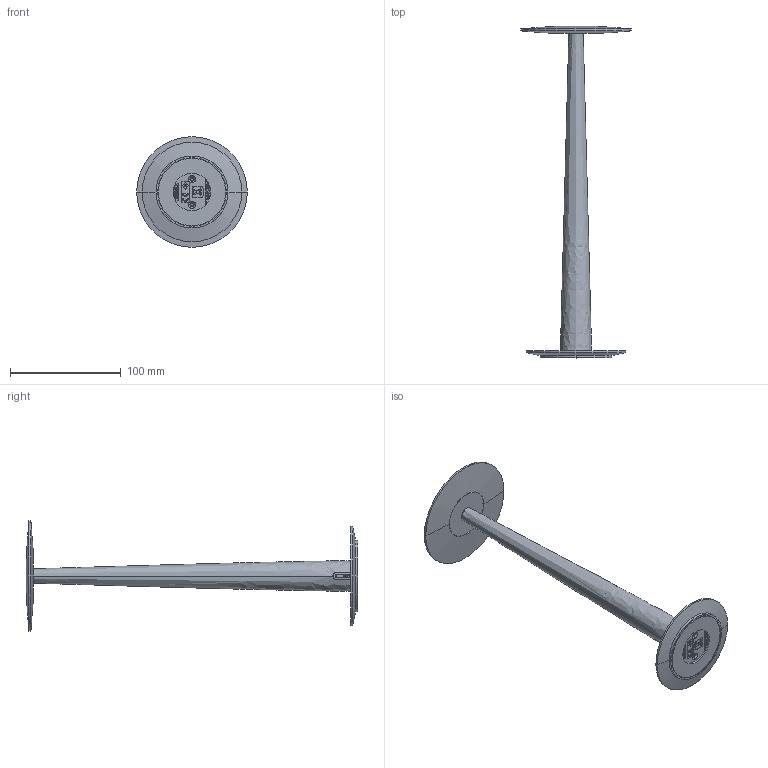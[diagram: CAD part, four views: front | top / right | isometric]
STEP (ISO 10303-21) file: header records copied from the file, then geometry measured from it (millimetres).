
FILE_DESCRIPTION (( 'STEP AP214' ), '1' );
FILE_NAME ('800PORLWW111_PORTOFINO_alluminio.STEP', '2023-07-04T13:41:00', ( '' ), ( '' ), 'SwSTEP 2.0', 'SolidWorks 2016', '' );
FILE_SCHEMA (( 'AUTOMOTIVE_DESIGN' ));
Length unit declared in the file: millimetre
Products named in the file (9): 052POR000200_GUIDALUCE PC; 052POR00100_DIFFUSORE PC_PER ALLUMINIO; 010POR000200_FELTRO SOTTOBASE TONDO; 052POR000300_CASE ELETTRONICA PC-ABS; 800PORLWW111_PORTOFINO_alluminio; 052POR00400_PUSH; 051POR700300_CONO AL; 051POR700100_TESTA ALLUMINIO; 051POR700400_BASE ALLUMINIO
Assembly tree (8 placements, depth 2):
  800PORLWW111_PORTOFINO_alluminio
    051POR700300_CONO AL
    051POR700100_TESTA ALLUMINIO
    052POR00400_PUSH
    051POR700400_BASE ALLUMINIO
    052POR000300_CASE ELETTRONICA PC-ABS
    010POR000200_FELTRO SOTTOBASE TONDO
    052POR00100_DIFFUSORE PC_PER ALLUMINIO
    052POR000200_GUIDALUCE PC
Bounding box: 100 x 299.94 x 100 mm (x, y, z)
Volume: 82108.4 mm3; surface area: 80227.5 mm2
Topology: 20 solids, 20 shells, 1338 faces, 3477 edges, 2286 vertices
Faces by surface type: plane 648, bspline 458, cylinder 123, cone 59, torus 44, sphere 6
Entity records: 69229 total; most frequent: CARTESIAN_POINT 38467, ORIENTED_EDGE 6946, DIRECTION 4475, EDGE_CURVE 3473, VERTEX_POINT 2286, VECTOR 1859, LINE 1859, EDGE_LOOP 1485
